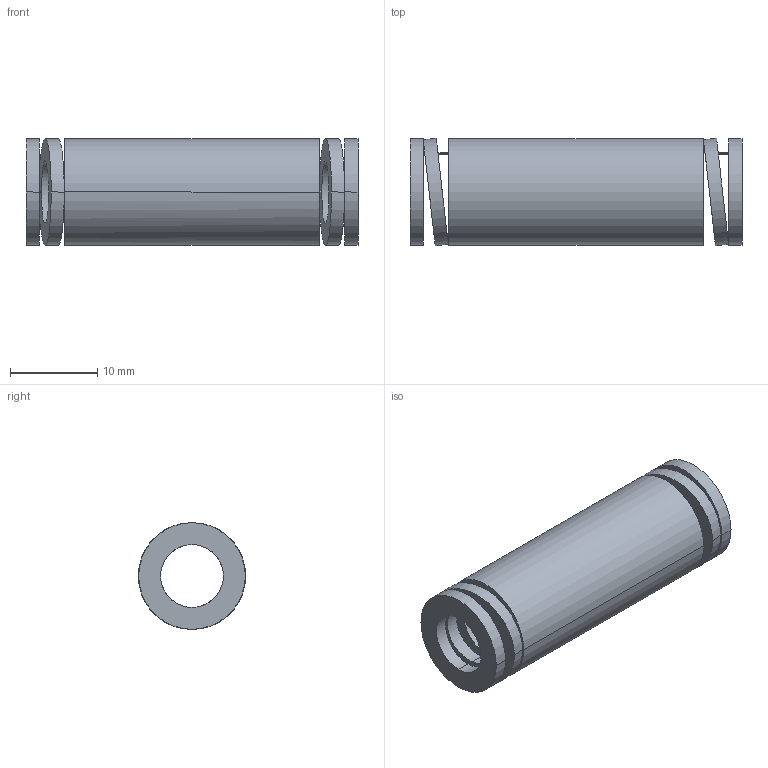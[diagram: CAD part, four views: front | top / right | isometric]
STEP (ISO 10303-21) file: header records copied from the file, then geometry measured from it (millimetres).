
FILE_DESCRIPTION(('CATIA V5 STEP Exchange'),'2;1');
FILE_NAME('C:\Users\Utente\Desktop\IO LAVORO\3D X SITO CF\X SITO\3D files 392B\392-B13-038.stp','2021-08-12T12:49:38+00:00',('none'),('none'),'CATIA Version 5 Release 20 GA (IN-10)','CATIA V5 STEP AP203','none');
FILE_SCHEMA(('CONFIG_CONTROL_DESIGN'));
Length unit declared in the file: millimetre
Products named in the file (1): 392-B13-038
Bounding box: 38 x 12.29 x 12.2 mm (x, y, z)
Volume: 2678.4 mm3; surface area: 2906 mm2
Topology: 1 solids, 1 shells, 38 faces, 92 edges, 64 vertices
Faces by surface type: cylinder 28, plane 10
Entity records: 1563 total; most frequent: CARTESIAN_POINT 670, ORIENTED_EDGE 184, DIRECTION 131, EDGE_CURVE 92, AXIS2_PLACEMENT_3D 66, VERTEX_POINT 64, EDGE_LOOP 56, ADVANCED_FACE 38
